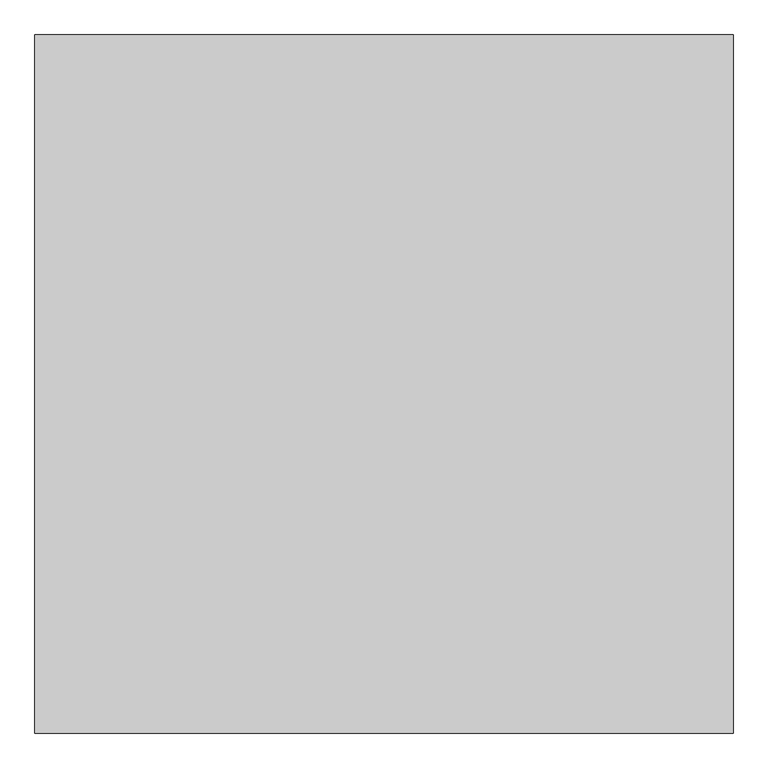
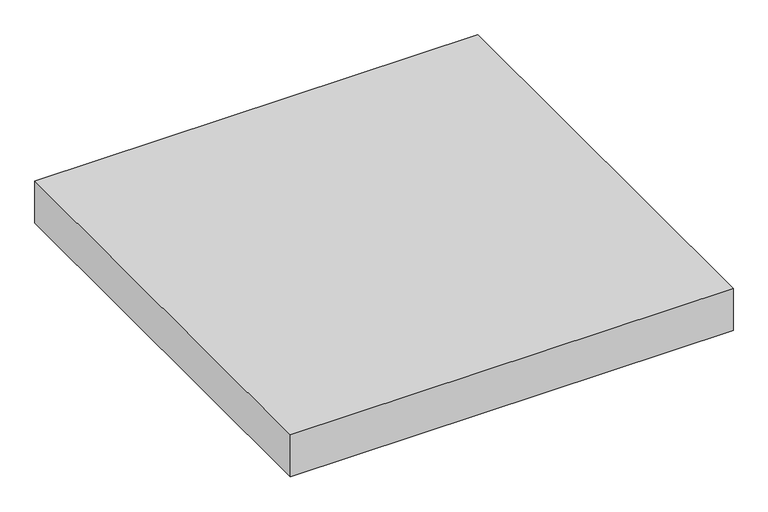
"""IFC4 building model written with IfcOpenShell, lengths in millimetres: proxy geometry, Modelos genéricos 12 : Modelos genéricos 1."""

from ifc_helpers import new_model, si_unit, origin, origin_with_axes, place, context, project, spatial, polyline, outline, extrude, source, transform, mapped, element, save


def generic_models_5f2c8e4c(model_context):
    return source(origin(), model_context, "Body", "SweptSolid", [
        extrude(outline(polyline([(-3422.6026359, 11454.287186), (-3422.6026359, 9954.287186), (-4922.6026359, 9954.287186), (-4922.6026359, 11454.287186), (-3422.6026359, 11454.287186)])), origin_with_axes(), (0.0, 0.0, 1.0), 150.0),
    ])


if __name__ == "__main__":
    model = new_model("IFC4")
    model_context = context("Model", 3, world=origin())
    ifc_project = project(units=[si_unit("LENGTHUNIT", "METRE", prefix="MILLI")], contexts=[model_context])
    site = spatial("IfcSite", under=ifc_project)
    building = spatial("IfcBuilding", under=site)
    placement = place(None, origin())
    generic_models_shape = generic_models_5f2c8e4c(model_context)
    element("IfcBuildingElementProxy", 1, Name="Modelos genéricos 12 : Modelos genéricos 1", ObjectType="Modelos genéricos 12 : Modelos genéricos 1", at=placement, inside=building, context=model_context, shape_type="MappedRepresentation", body=[
        mapped(generic_models_shape, transform((0.0, 0.0, 0.0), x_axis=(1.0, 0.0, 0.0), y_axis=(0.0, 1.0, 0.0), z_axis=(0.0, 0.0, 1.0))),
    ])
    save(model, "model.ifc")
